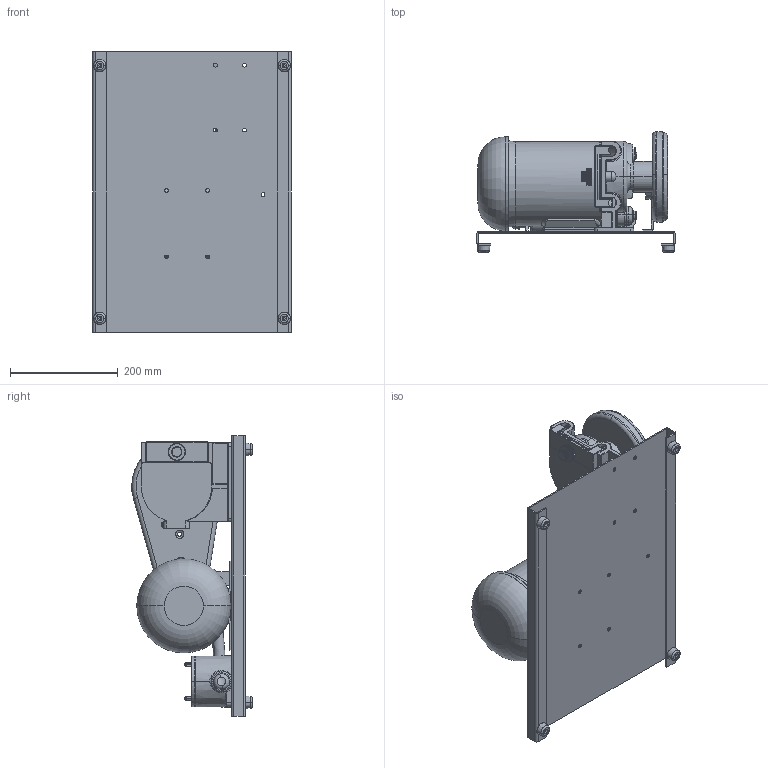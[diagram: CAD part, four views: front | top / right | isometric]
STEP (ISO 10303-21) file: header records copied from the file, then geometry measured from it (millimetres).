
FILE_DESCRIPTION (( 'STEP AP203' ), '1' );
FILE_NAME ('610-200.STEP', '2012-08-31T15:19:18', ( '' ), ( '' ), 'SwSTEP 2.0', 'SolidWorks 2012', '' );
FILE_SCHEMA (( 'CONFIG_CONTROL_DESIGN' ));
Length unit declared in the file: inch
Products named in the file (1): 610-200
Bounding box: 368.3 x 223.66 x 520.7 mm (x, y, z)
Surface area: 1034642.3 mm2 (no closed solid volume)
Topology: 0 solids, 40 shells, 1021 faces, 3841 edges, 2706 vertices
Faces by surface type: plane 389, cylinder 388, cone 106, torus 84, bspline 50, sphere 4
Entity records: 50607 total; most frequent: CARTESIAN_POINT 19286, DIRECTION 6580, ORIENTED_EDGE 5895, EDGE_CURVE 3835, VERTEX_POINT 2706, AXIS2_PLACEMENT_3D 2446, VECTOR 1688, LINE 1688
